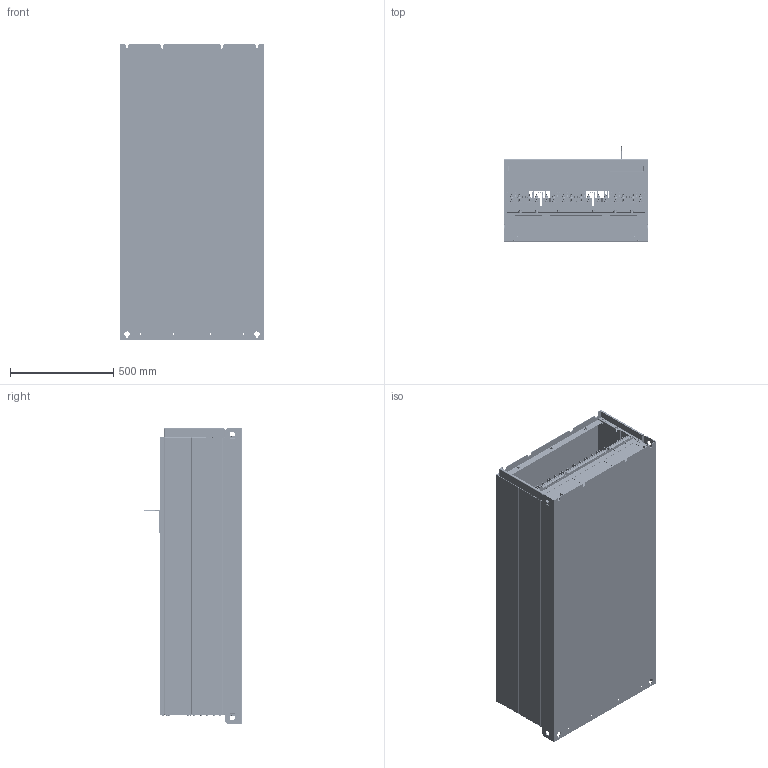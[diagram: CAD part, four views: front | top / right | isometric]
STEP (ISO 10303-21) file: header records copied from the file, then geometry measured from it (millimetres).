
FILE_DESCRIPTION((''),'2;1');
FILE_NAME('VFD-CP-H1-PD-3D00_ASM','2020-01-07T14:22:35',('GH.HUANG'),(''),'CREO PARAMETRIC BY PTC INC, 2018500','CREO PARAMETRIC BY PTC INC, 2018500','');
FILE_SCHEMA(('AUTOMOTIVE_DESIGN { 1 0 10303 214 1 1 1 1 }'));
Products named in the file (93): PRT0019; PRT0020; ASM0009_ASM_ASM; PRT0021; PRT0022; ASM0011_ASM_ASM; ASM0010_ASM_ASM; PRT0023; PRT0024; ASM0013_ASM_ASM; ASM0012_ASM_ASM; ASM0008_ASM_ASM; ASM0007_ASM_ASM; PRT0028; ASM0017_ASM_ASM; ASM0016_ASM_ASM; PRT0029; ASM0019_ASM_ASM; ASM0018_ASM_ASM; ASM0015_ASM_ASM; PRT0030; PRT0031; ASM0021_ASM_ASM; PRT0032; PRT0033; PRT0034; ASM0022_ASM_ASM; ASM0020_ASM_ASM; PRT0035; PRT0036; PRT0037; ASM0024_ASM_ASM; PRT0038; PRT0039; ASM0025_ASM_ASM; PRT0040; ASM0026_ASM_ASM; PRT0027; ASM0023_ASM_ASM; PRT0041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
Assembly tree (234 placements, depth 10):
  VFD-CP-H1-PD-3D00_ASM
    ASM0006_ASM_ASM
      ASM0007_ASM_ASM
        ASM0008_ASM_ASM
          ASM0009_ASM_ASM
            PRT0019
            PRT0020  x16
          ASM0010_ASM_ASM
            ASM0011_ASM_ASM
              PRT0021
              PRT0022
          ASM0012_ASM_ASM
            ASM0013_ASM_ASM
              PRT0023
              PRT0024
      ASM0015_ASM_ASM
        ASM0016_ASM_ASM
          ASM0017_ASM_ASM
            PRT0028
        ASM0018_ASM_ASM
          ASM0019_ASM_ASM
            PRT0029
      ASM0020_ASM_ASM
        ASM0021_ASM_ASM
          PRT0030
          PRT0031  x4
        ASM0022_ASM_ASM
          PRT0032
          PRT0033  x2
          PRT0034
      PRT0035  x30
      PRT0036  x14
      ASM0023_ASM_ASM
        ASM0024_ASM_ASM
          PRT0037
        ASM0025_ASM_ASM  x16
          PRT0038
          PRT0039
        ASM0026_ASM_ASM  x16
          PRT0040
        PRT0027  x32
      PRT0041  x2
      PRT0042  x4
      ASM0027_ASM_ASM
        ASM0028_ASM_ASM
          PRT0043
        ASM0029_ASM_ASM
          PRT0044
      ASM0030_ASM_ASM
        ASM0031_ASM_ASM
          PRT0045
      ASM0032_ASM_ASM
        ASM0033_ASM_ASM
          PRT0046
      ASM0034_ASM_ASM  x2
        ASM0035_ASM_ASM
          PRT0047
      ASM0036_ASM_ASM
        ASM0037_ASM_ASM
          PRT0048
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Bounding box: 700.01 x 482.05 x 1435 mm (x, y, z)
Volume: 9840506.9 mm3; surface area: 9410670.3 mm2
Topology: 215 solids, 346 shells, 17417 faces, 47128 edges, 30896 vertices
Faces by surface type: plane 8307, cylinder 6341, bspline 1557, torus 587, cone 541, sphere 82, extrusion 2
Entity records: 293232 total; most frequent: CARTESIAN_POINT 113380, DIRECTION 33722, ORIENTED_EDGE 33324, EDGE_CURVE 16662, AXIS2_PLACEMENT_3D 11218, VECTOR 11051, LINE 11049, VERTEX_POINT 10666
